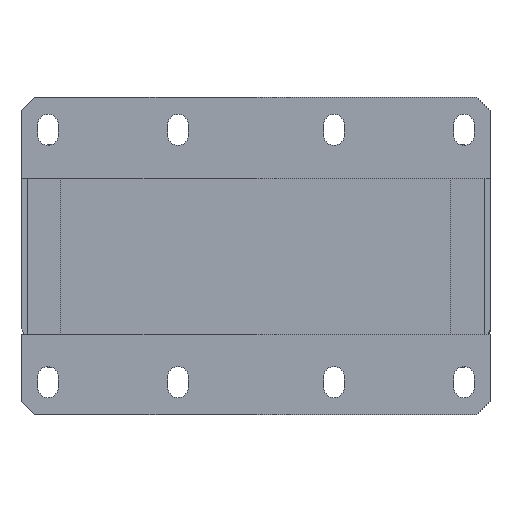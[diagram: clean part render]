
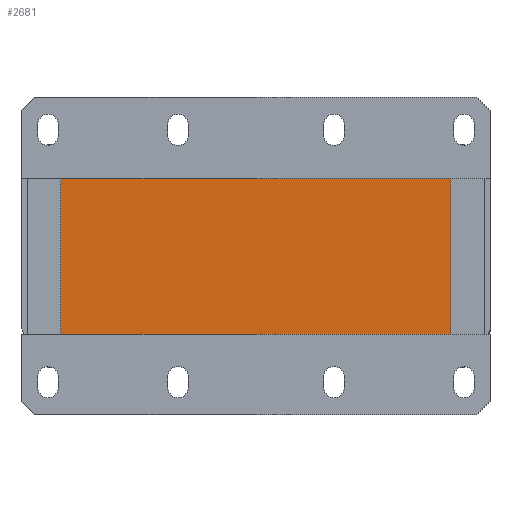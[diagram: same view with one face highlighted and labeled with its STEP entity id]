
A CAD part, front view. The second image highlights one B-rep face of the part: STEP entity #2681.
In plain terms, the highlighted planar face has unit normal (0, -1, 0).
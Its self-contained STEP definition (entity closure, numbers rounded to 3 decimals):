
#231=FACE_OUTER_BOUND('',#399,.T.);
#399=EDGE_LOOP('',(#2069,#2070,#2071,#2072));
#615=LINE('',#4128,#921);
#619=LINE('',#4136,#925);
#622=LINE('',#4142,#928);
#625=LINE('',#4147,#931);
#921=VECTOR('',#3340,10.);
#925=VECTOR('',#3346,10.);
#928=VECTOR('',#3351,10.);
#931=VECTOR('',#3356,10.);
#1207=VERTEX_POINT('',#4126);
#1208=VERTEX_POINT('',#4127);
#1211=VERTEX_POINT('',#4135);
#1213=VERTEX_POINT('',#4141);
#1511=EDGE_CURVE('',#1207,#1208,#615,.T.);
#1515=EDGE_CURVE('',#1208,#1211,#619,.T.);
#1518=EDGE_CURVE('',#1211,#1213,#622,.T.);
#1521=EDGE_CURVE('',#1213,#1207,#625,.T.);
#2069=ORIENTED_EDGE('',*,*,#1521,.T.);
#2070=ORIENTED_EDGE('',*,*,#1511,.T.);
#2071=ORIENTED_EDGE('',*,*,#1515,.T.);
#2072=ORIENTED_EDGE('',*,*,#1518,.T.);
#2557=PLANE('',#2896);
#2681=ADVANCED_FACE('',(#231),#2557,.T.);
#2896=AXIS2_PLACEMENT_3D('',#4149,#3358,#3359);
#3340=DIRECTION('',(0.,0.,1.));
#3346=DIRECTION('',(-1.,0.,0.));
#3351=DIRECTION('',(0.,0.,-1.));
#3356=DIRECTION('',(1.,0.,0.));
#3358=DIRECTION('center_axis',(0.,-1.,0.));
#3359=DIRECTION('ref_axis',(0.,0.,-1.));
#4126=CARTESIAN_POINT('',(75.,2.,-30.));
#4127=CARTESIAN_POINT('',(75.,2.,30.));
#4128=CARTESIAN_POINT('',(75.,2.,-30.));
#4135=CARTESIAN_POINT('',(-75.,2.,30.));
#4136=CARTESIAN_POINT('',(75.,2.,30.));
#4141=CARTESIAN_POINT('',(-75.,2.,-30.));
#4142=CARTESIAN_POINT('',(-75.,2.,30.));
#4147=CARTESIAN_POINT('',(-75.,2.,-30.));
#4149=CARTESIAN_POINT('Origin',(0.,2.,0.));
